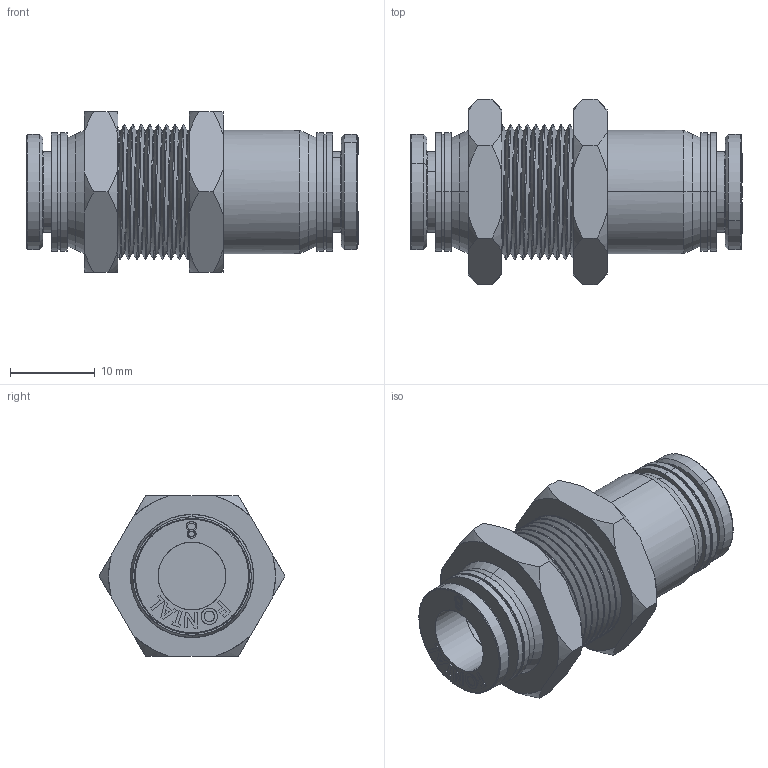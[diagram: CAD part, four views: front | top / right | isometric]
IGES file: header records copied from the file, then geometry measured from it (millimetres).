
Start section: SolidWorks IGES file using analytic representation for surfaces
Global section: file name: D:\Custom\3D繪製\ADDITIONAL\FPM\FPM8.IGS,1; native system: 5HSolidWorks 2014; preprocessor: SolidWorks 2014; author: Chieh_Lu; date: 160115.051331; units: millimetre
Bounding box: 39.24 x 21.94 x 19 mm (x, y, z)
Surface area: 5355 mm2 (no closed solid volume)
Topology: 0 solids, 0 shells, 309 faces, 3828 edges, 3820 vertices
Faces by surface type: bspline 216, revolution 93
